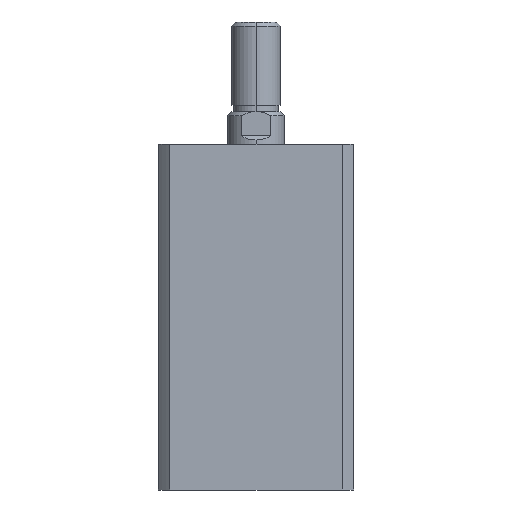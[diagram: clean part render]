
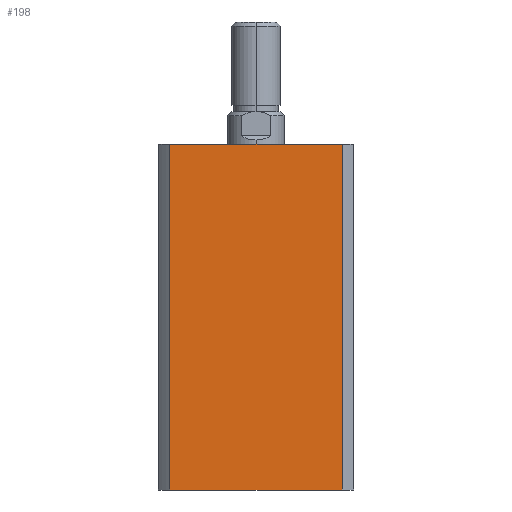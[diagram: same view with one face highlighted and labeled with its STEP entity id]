
A CAD part, left-side view. The second image highlights one B-rep face of the part: STEP entity #198.
In plain terms, the highlighted planar face has unit normal (-1, 0, 0).
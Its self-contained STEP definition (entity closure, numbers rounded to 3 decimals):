
#198 = ADVANCED_FACE ( 'NONE', ( #992 ), #4074, .F. ) ;
#404 = CARTESIAN_POINT ( 'NONE',  ( -24., 21.166, 85. ) ) ;
#432 = CARTESIAN_POINT ( 'NONE',  ( -24., -21.166, 85. ) ) ;
#684 = CARTESIAN_POINT ( 'NONE',  ( -24., 21.166, 0. ) ) ;
#992 = FACE_OUTER_BOUND ( 'NONE', #3574, .T. ) ;
#1146 = LINE ( 'NONE', #2144, #1149 ) ;
#1149 = VECTOR ( 'NONE', #2128, 1000. ) ;
#1417 = LINE ( 'NONE', #1773, #1445 ) ;
#1441 = LINE ( 'NONE', #1767, #1443 ) ;
#1442 = LINE ( 'NONE', #1772, #1447 ) ;
#1443 = VECTOR ( 'NONE', #1768, 1000. ) ;
#1445 = VECTOR ( 'NONE', #1778, 1000. ) ;
#1447 = VECTOR ( 'NONE', #1780, 1000. ) ;
#1767 = CARTESIAN_POINT ( 'NONE',  ( -24., 0., 0. ) ) ;
#1768 = DIRECTION ( 'NONE',  ( 0., -1., 0. ) ) ;
#1772 = CARTESIAN_POINT ( 'NONE',  ( -24., 21.166, 85. ) ) ;
#1773 = CARTESIAN_POINT ( 'NONE',  ( -24., -21.166, 85. ) ) ;
#1778 = DIRECTION ( 'NONE',  ( 0., 0., -1. ) ) ;
#1780 = DIRECTION ( 'NONE',  ( 0., 0., -1. ) ) ;
#1935 = CARTESIAN_POINT ( 'NONE',  ( -24., -21.166, 0. ) ) ;
#2128 = DIRECTION ( 'NONE',  ( 0., -1., 0. ) ) ;
#2144 = CARTESIAN_POINT ( 'NONE',  ( -24., 0., 85. ) ) ;
#2917 = EDGE_CURVE ( 'NONE', #3162, #3186, #1146, .T. ) ;
#3162 = VERTEX_POINT ( 'NONE', #404 ) ;
#3186 = VERTEX_POINT ( 'NONE', #432 ) ;
#3542 = ORIENTED_EDGE ( 'NONE', *, *, #4933, .T. ) ;
#3543 = ORIENTED_EDGE ( 'NONE', *, *, #2917, .F. ) ;
#3544 = ORIENTED_EDGE ( 'NONE', *, *, #4932, .F. ) ;
#3545 = ORIENTED_EDGE ( 'NONE', *, *, #4931, .T. ) ;
#3574 = EDGE_LOOP ( 'NONE', ( #3545, #3544, #3543, #3542 ) ) ;
#3793 = AXIS2_PLACEMENT_3D ( 'NONE', #4069, #4077, #4078 ) ;
#4027 = VERTEX_POINT ( 'NONE', #684 ) ;
#4069 = CARTESIAN_POINT ( 'NONE',  ( -24., 0., 85. ) ) ;
#4074 = PLANE ( 'NONE',  #3793 ) ;
#4077 = DIRECTION ( 'NONE',  ( 1., 0., 0. ) ) ;
#4078 = DIRECTION ( 'NONE',  ( 0., 0., -1. ) ) ;
#4931 = EDGE_CURVE ( 'NONE', #4027, #5144, #1441, .T. ) ;
#4932 = EDGE_CURVE ( 'NONE', #3186, #5144, #1417, .T. ) ;
#4933 = EDGE_CURVE ( 'NONE', #3162, #4027, #1442, .T. ) ;
#5144 = VERTEX_POINT ( 'NONE', #1935 ) ;
